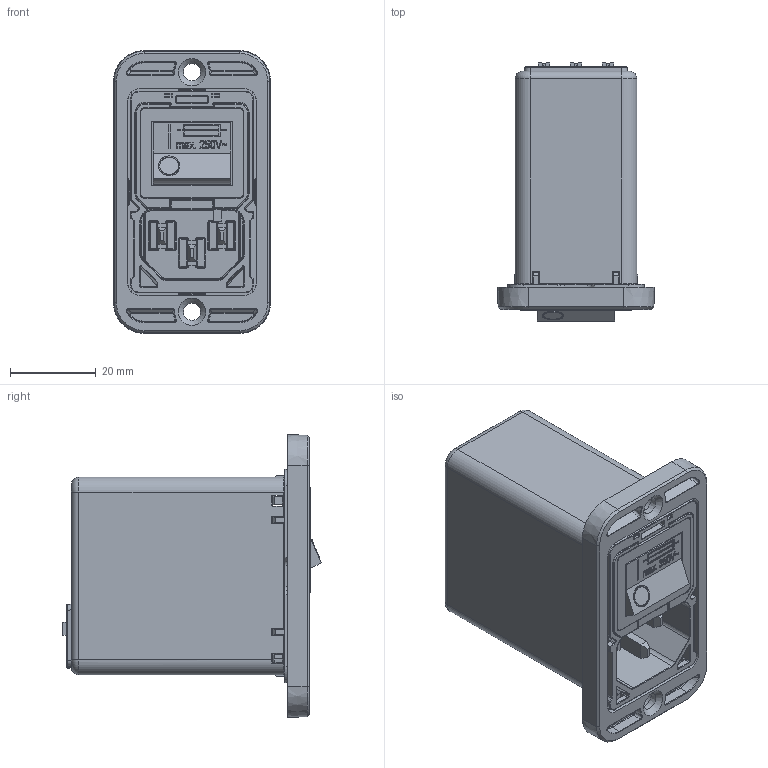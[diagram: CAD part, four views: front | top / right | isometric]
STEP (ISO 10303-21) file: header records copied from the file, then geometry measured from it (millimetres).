
FILE_DESCRIPTION((''),'2;1');
FILE_NAME('H:\02_Projects\A_Others\Z_Support\Luis\Cherry_STP\Step_Files\1 Stage\1_stage_spring_cage_vertical_front.stp','2012-07-26T15:06:03',('Samuel.Meier'),(''),'Autodesk Inventor 2010','Autodesk Inventor 2010','');
FILE_SCHEMA(('AUTOMOTIVE_DESIGN { 1 2 10303 214 0 1 1 1 }'));
Length unit declared in the file: millimetre
Products named in the file (1): 1_stage_spring_cage_vertical_front
Bounding box: 36.67 x 60.34 x 66.07 mm (x, y, z)
Surface area: 39325.8 mm2 (no closed solid volume)
Topology: 0 solids, 21 shells, 3355 faces, 8858 edges, 5491 vertices
Faces by surface type: plane 1396, cylinder 1203, bspline 512, torus 97, sphere 91, cone 56
Full cylindrical faces by diameter (mm): 0.8 x4, 1 x2, 1.1 x10, 1.2 x4, 2.7 x1, 3.6 x1, 4 x2, 4.5 x2, 6.5 x1, 7.2 x1, 8.2 x1
Entity records: 114201 total; most frequent: CARTESIAN_POINT 29095, ORIENTED_EDGE 17460, DIRECTION 16826, EDGE_CURVE 8730, AXIS2_PLACEMENT_3D 5872, VERTEX_POINT 5485, VECTOR 5082, LINE 5082
